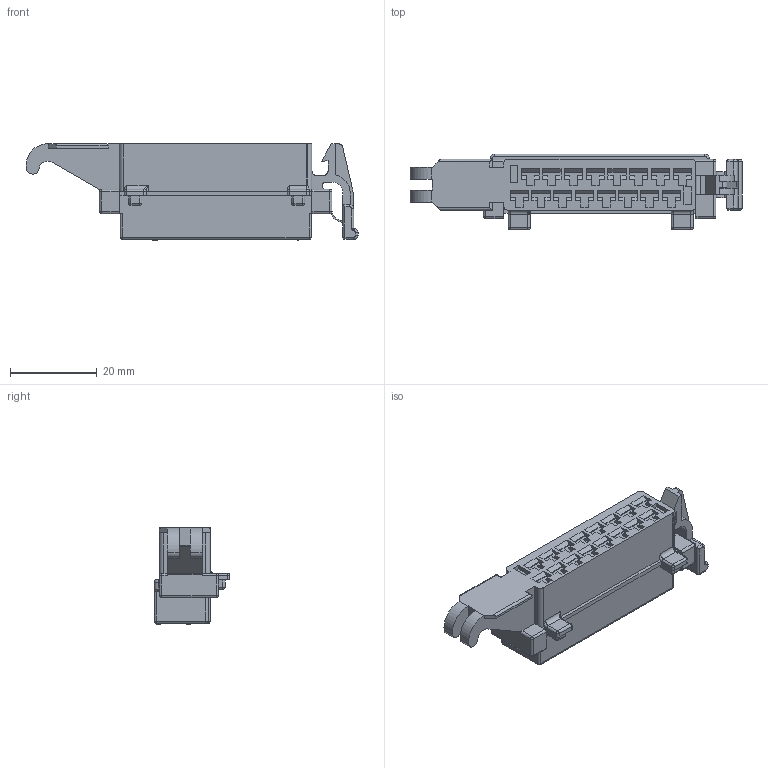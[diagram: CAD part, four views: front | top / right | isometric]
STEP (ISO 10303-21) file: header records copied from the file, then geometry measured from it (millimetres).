
FILE_DESCRIPTION((''),'2;1');
FILE_NAME('C-827584-2','2016-04-22T',('workeradm'),('Tyco Electronics Ltd.'),'CREO PARAMETRIC BY PTC INC, 2015200','CREO PARAMETRIC BY PTC INC, 2015200','');
FILE_SCHEMA(('AUTOMOTIVE_DESIGN { 1 0 10303 214 1 1 1 1 }'));
Length unit declared in the file: millimetre
Products named in the file (1): C-827584-2
Bounding box: 76.4 x 17.4 x 22.2 mm (x, y, z)
Volume: 13740.2 mm3; surface area: 5875.1 mm2
Topology: 1 solids, 1 shells, 607 faces, 1601 edges, 1031 vertices
Faces by surface type: plane 451, cylinder 117, sphere 22, torus 10, bspline 7
Entity records: 18693 total; most frequent: CARTESIAN_POINT 3497, ORIENTED_EDGE 3202, DIRECTION 3026, EDGE_CURVE 1601, VECTOR 1346, LINE 1346, VERTEX_POINT 1031, AXIS2_PLACEMENT_3D 840
